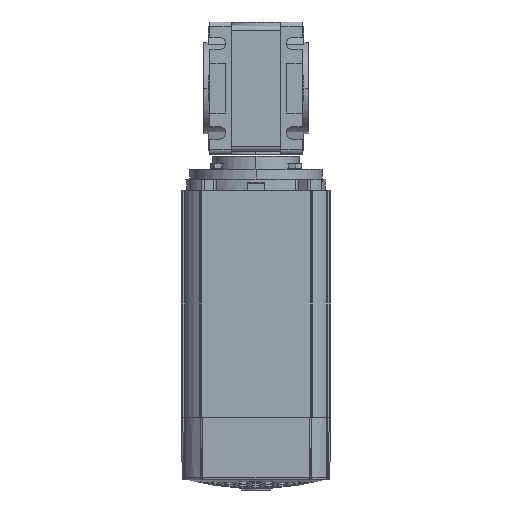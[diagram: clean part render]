
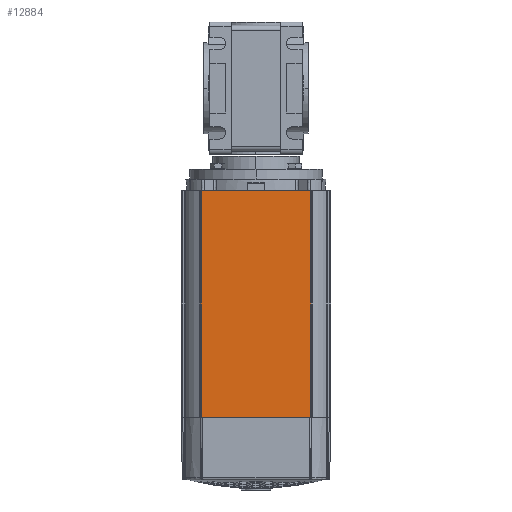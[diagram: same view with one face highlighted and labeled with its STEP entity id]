
A CAD part, front view. The second image highlights one B-rep face of the part: STEP entity #12884.
In plain terms, the highlighted planar face has unit normal (0, -1, 0).
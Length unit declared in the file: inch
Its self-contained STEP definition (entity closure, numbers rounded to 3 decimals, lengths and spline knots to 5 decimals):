
#7093 = DIRECTION ( 'NONE',  ( 0., 0., 1. ) ) ;
#7095 = VECTOR ( 'NONE', #7093, 39.37008 ) ;
#7097 = CARTESIAN_POINT ( 'NONE',  ( 1.305, -1.7765, -1.09418 ) ) ;
#7098 = LINE ( 'NONE', #7097, #7095 ) ;
#7103 = CARTESIAN_POINT ( 'NONE',  ( 1.305, -1.7765, -1.09418 ) ) ;
#7177 = CARTESIAN_POINT ( 'NONE',  ( -1.305, -1.7765, 4.30082 ) ) ;
#7180 = DIRECTION ( 'NONE',  ( 0., 0., -1. ) ) ;
#7181 = VECTOR ( 'NONE', #7180, 39.37008 ) ;
#7183 = CARTESIAN_POINT ( 'NONE',  ( -1.305, -1.7765, -1.09418 ) ) ;
#7185 = LINE ( 'NONE', #7183, #7181 ) ;
#7188 = CARTESIAN_POINT ( 'NONE',  ( -1.305, -1.7765, -1.09418 ) ) ;
#7484 = DIRECTION ( 'NONE',  ( 1., 0., 0. ) ) ;
#7486 = VECTOR ( 'NONE', #7484, 39.37008 ) ;
#7488 = CARTESIAN_POINT ( 'NONE',  ( -1.325, -1.7765, -1.09418 ) ) ;
#7489 = LINE ( 'NONE', #7488, #7486 ) ;
#7495 = CARTESIAN_POINT ( 'NONE',  ( 1.305, -1.7765, 4.30082 ) ) ;
#7497 = DIRECTION ( 'NONE',  ( 1., 0., 0. ) ) ;
#7499 = VECTOR ( 'NONE', #7497, 39.37008 ) ;
#7500 = CARTESIAN_POINT ( 'NONE',  ( -1.325, -1.7765, 4.30082 ) ) ;
#7504 = DIRECTION ( 'NONE',  ( 0., 0., -1. ) ) ;
#7506 = DIRECTION ( 'NONE',  ( 0., -1., 0. ) ) ;
#7507 = CARTESIAN_POINT ( 'NONE',  ( -1.325, -1.7765, -1.09418 ) ) ;
#7509 = AXIS2_PLACEMENT_3D ( 'NONE', #7507, #7506, #7504 ) ;
#7510 = LINE ( 'NONE', #7500, #7499 ) ;
#7514 = PLANE ( 'NONE',  #7509 ) ;
#7516 = FACE_OUTER_BOUND ( 'NONE', #12887, .T. ) ;
#12756 = VERTEX_POINT ( 'NONE', #7103 ) ;
#12757 = ORIENTED_EDGE ( 'NONE', *, *, #12758, .T. ) ;
#12758 = EDGE_CURVE ( 'NONE', #12756, #12890, #7098, .T. ) ;
#12779 = VERTEX_POINT ( 'NONE', #7188 ) ;
#12781 = EDGE_CURVE ( 'NONE', #12782, #12779, #7185, .T. ) ;
#12782 = VERTEX_POINT ( 'NONE', #7177 ) ;
#12884 = ADVANCED_FACE ( 'NONE', ( #7516 ), #7514, .T. ) ;
#12887 = EDGE_LOOP ( 'NONE', ( #12888, #12892, #12894, #12757 ) ) ;
#12888 = ORIENTED_EDGE ( 'NONE', *, *, #12889, .F. ) ;
#12889 = EDGE_CURVE ( 'NONE', #12782, #12890, #7510, .T. ) ;
#12890 = VERTEX_POINT ( 'NONE', #7495 ) ;
#12892 = ORIENTED_EDGE ( 'NONE', *, *, #12781, .T. ) ;
#12894 = ORIENTED_EDGE ( 'NONE', *, *, #12897, .T. ) ;
#12897 = EDGE_CURVE ( 'NONE', #12779, #12756, #7489, .T. ) ;
